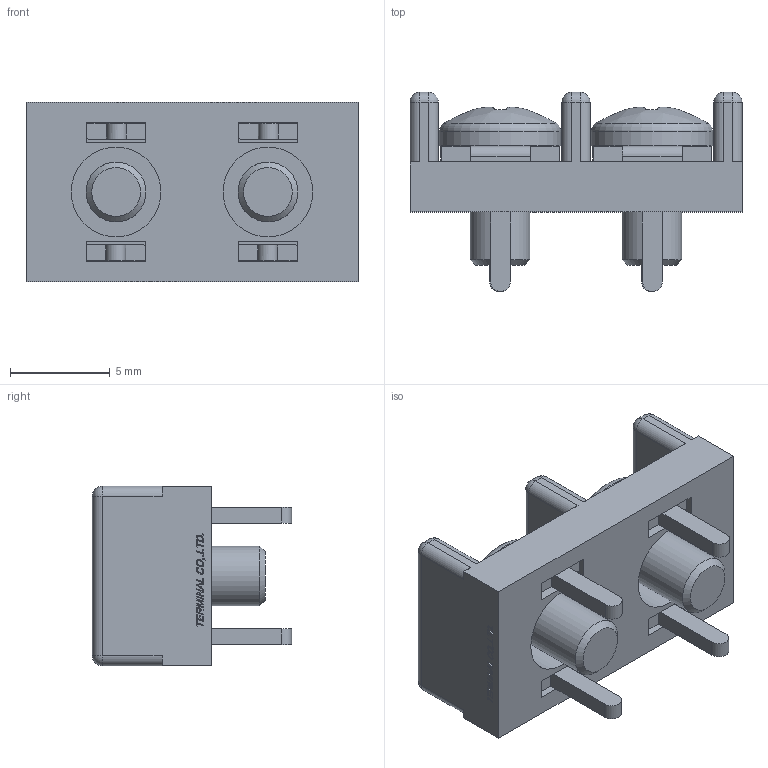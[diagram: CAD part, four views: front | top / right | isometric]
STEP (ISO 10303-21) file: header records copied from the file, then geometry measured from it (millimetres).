
FILE_DESCRIPTION(/* description */ ('Alibre Inc.'),/* implementation_level */ '2;1');
FILE_NAME(/* name */ 'export0',/* time_stamp */ '2015-11-28T15:38:34+09:00',/* author */ (''),/* organization */ (''),/* preprocessor_version */ 'ST-DEVELOPER v14',/* originating_system */ 'Alibre',/* authorisation */ '');
FILE_SCHEMA (('CONFIG_CONTROL_DESIGN'));
Length unit declared in the file: centimetre
Products named in the file (1): ID_1
Bounding box: 16.66 x 10 x 9 mm (x, y, z)
Volume: 638 mm3; surface area: 1176.8 mm2
Topology: 1 solids, 17 shells, 560 faces, 1462 edges, 952 vertices
Faces by surface type: plane 390, bspline 104, cylinder 40, sphere 14, cone 10, torus 2
Full cylindrical faces by diameter (mm): 3 x4, 4.5 x2, 6.1 x2
Entity records: 16441 total; most frequent: CARTESIAN_POINT 3897, ORIENTED_EDGE 2868, DIRECTION 1815, EDGE_CURVE 1434, VECTOR 1066, LINE 1066, VERTEX_POINT 948, EDGE_LOOP 616
